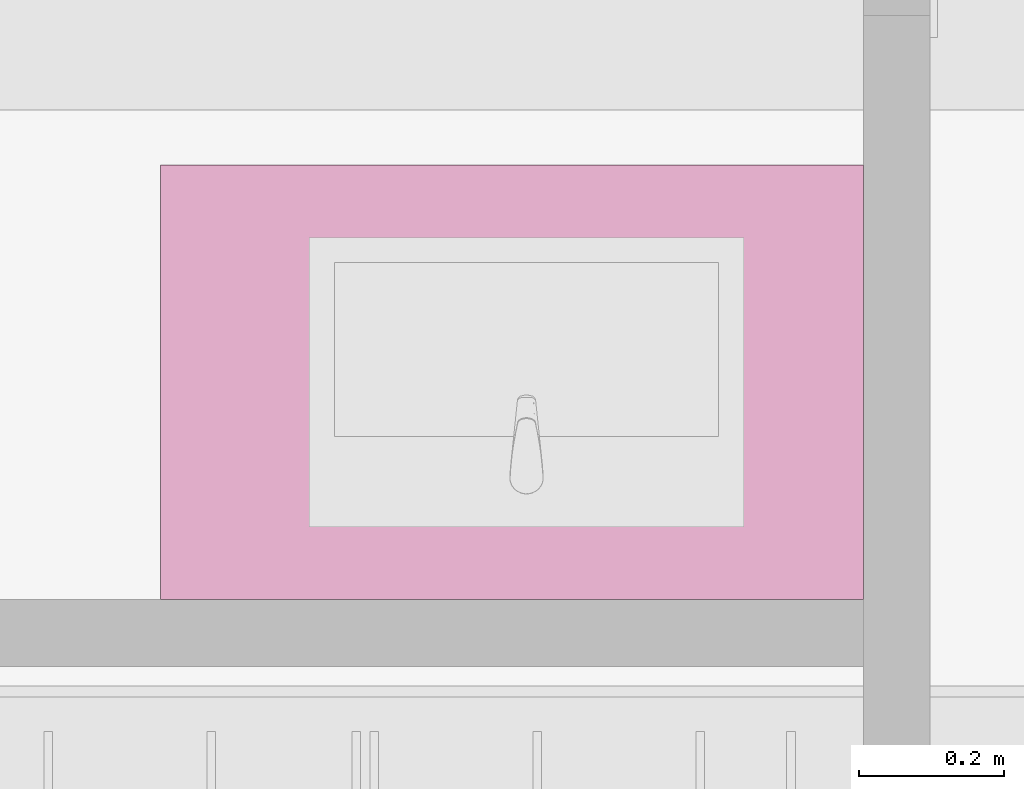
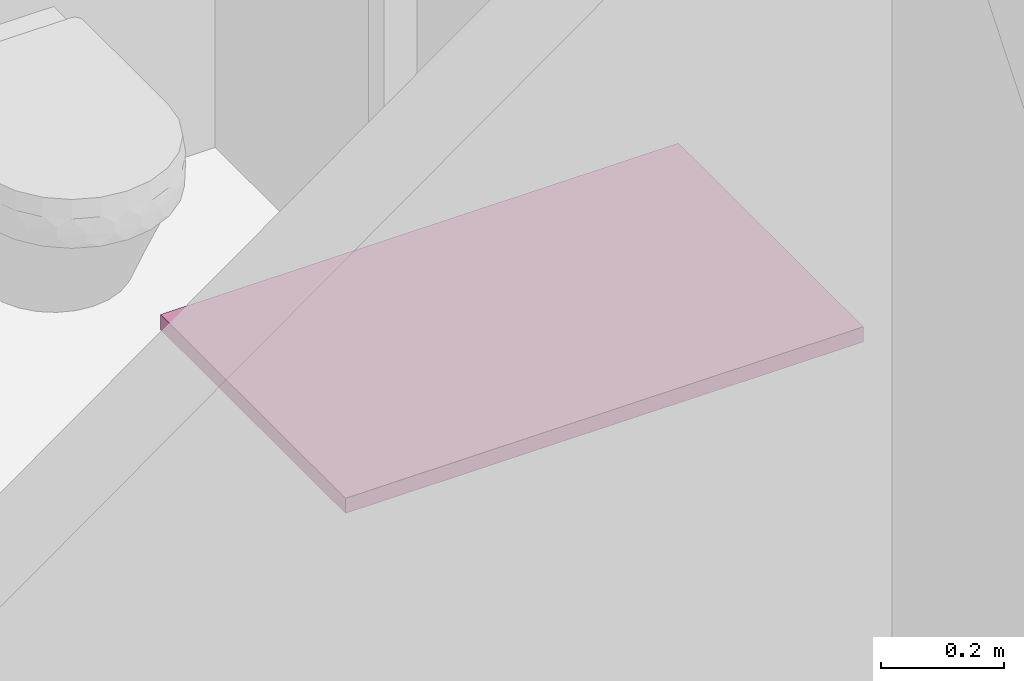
# One storey, part 31 of 57: 1 furnishing.
"""IFC2X3 building model written with IfcOpenShell, lengths in millimetres."""

from ifc_helpers import new_model, entity, si_unit, converted_unit, direction, frame, frame_2d, origin, place, context, subcontext, project, spatial, rectangle, extrude, source, transform, mapped, material, type_object, type_shapes, element, save


model = new_model("IFC2X3")

# Units and contexts
model_context = context("Model", 3, precision=0.01, world=origin(), true_north=direction((6.123233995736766e-17, 1.0)))
plan_context = context("Plan", 3, precision=0.01, world=origin(), true_north=direction((6.123233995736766e-17, 1.0)))
body_context = subcontext(model_context, "Body", "Model", "MODEL_VIEW")
ifc_project = project(units=[si_unit("LENGTHUNIT", "METRE", prefix="MILLI"), converted_unit("PLANEANGLEUNIT", "DEGREE", entity("IfcPlaneAngleMeasure", 0.017453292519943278), si_unit("PLANEANGLEUNIT", "RADIAN"), dimensions=[0, 0, 0, 0, 0, 0, 0]), si_unit("AREAUNIT", "SQUARE_METRE")], contexts=[model_context, plan_context])

# Site, building, storey, space
site_placement = place(None, origin())
site = spatial("IfcSite", under=ifc_project, at=site_placement, Name="Default", CompositionType="ELEMENT")
building_placement = place(site_placement, origin())
building = spatial("IfcBuilding", under=site, at=building_placement, CompositionType="ELEMENT")
storey_placement = place(building_placement, frame((0.0, 0.0, 12811.000000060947)))
storey = spatial("IfcBuildingStorey", under=building, at=storey_placement, Name="5K", CompositionType="ELEMENT", Elevation=12811.000000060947)
space_placement = place(storey_placement, origin())
space = spatial("IfcSpace", under=storey, at=space_placement, Name="5-12.8", CompositionType="ELEMENT", InteriorOrExteriorSpace="INTERNAL")

# Furnishing
ifc_material = material(Name="<Unnamed>")
furniture_type = type_object("IfcFurnitureType", Name="HR_Casework_Work-surface_Generic_Rectangular_v1:Default", AssemblyPlace="NOTDEFINED", material=ifc_material)
shared_shape = source(origin(), body_context, "Body", "SweptSolid", [
    extrude(rectangle(XDim=970.0028029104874, YDim=600.0, at=frame_2d((8.810729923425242e-13, 0.0), x_axis=(1.0, 0.0))), frame((0.0, 300.0, -11941.000000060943)), (0.0, 0.0, 1.0), 29.999999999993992),
])
type_shapes(furniture_type, [shared_shape])
furnishing_placement = place(space_placement, frame((6754.998598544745, 3092.0, 12811.000000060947), z_axis=(0.0, 0.0, 1.0), x_axis=(-1.0, 0.0, 0.0)))
element("IfcFurnishingElement", 1, at=furnishing_placement, inside=space, type_object=furniture_type, material=ifc_material, Name="HR_Casework_Work-surface_Generic_Rectangular_v1:Default", ObjectType="HR_Casework_Work-surface_Generic_Rectangular_v1:Default", context=body_context, shape_type="MappedRepresentation", body=[
    mapped(shared_shape, transform((0.0, 0.0, 0.0), scale=1.0)),
])

save(model, "model.ifc")
